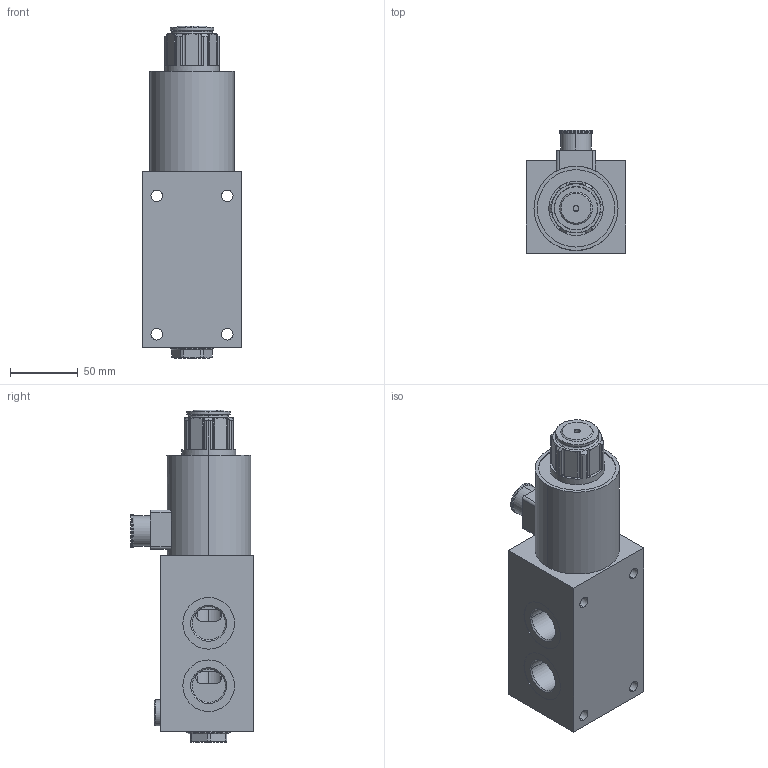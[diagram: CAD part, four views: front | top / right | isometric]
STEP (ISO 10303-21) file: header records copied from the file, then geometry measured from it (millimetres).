
FILE_DESCRIPTION (( 'STEP AP214' ), '1' );
FILE_NAME ('GED-ED6-120-6-34.STEP', '2026-05-12T14:33:30', ( '' ), ( '' ), 'SwSTEP 2.0', 'SolidWorks 2022', '' );
FILE_SCHEMA (( 'AUTOMOTIVE_DESIGN' ));
Length unit declared in the file: millimetre
Products named in the file (1): GED-ED6-120-6-34
Bounding box: 73 x 90.55 x 244.8 mm (x, y, z)
Volume: 778649.6 mm3; surface area: 99402.6 mm2
Topology: 1 solids, 1 shells, 427 faces, 1072 edges, 691 vertices
Faces by surface type: plane 193, cylinder 117, cone 55, bspline 50, torus 12
Entity records: 18029 total; most frequent: CARTESIAN_POINT 5973, ORIENTED_EDGE 2144, DIRECTION 1967, EDGE_CURVE 1072, AXIS2_PLACEMENT_3D 707, VERTEX_POINT 691, LINE 553, VECTOR 553
